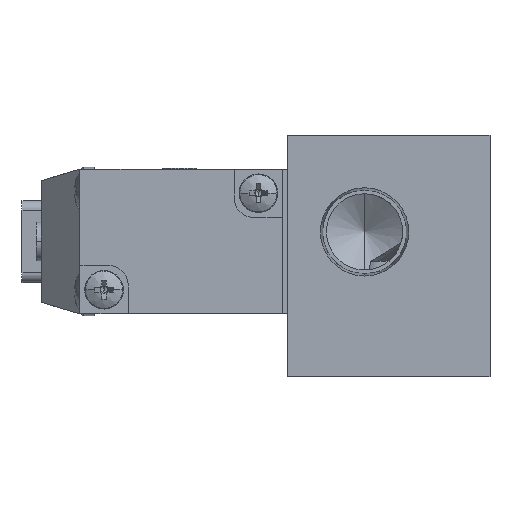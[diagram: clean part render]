
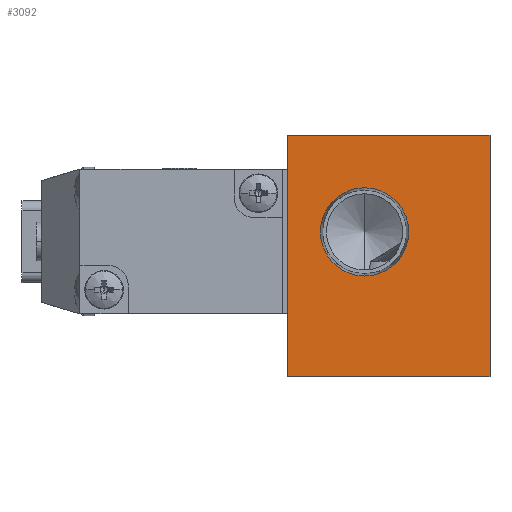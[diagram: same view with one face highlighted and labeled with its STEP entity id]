
A CAD part, left-side view. The second image highlights one B-rep face of the part: STEP entity #3092.
In plain terms, the highlighted planar face has unit normal (-1, 0, 0).
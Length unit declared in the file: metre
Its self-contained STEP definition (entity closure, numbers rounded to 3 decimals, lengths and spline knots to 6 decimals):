
#191 = CARTESIAN_POINT ( 'NONE',  ( -0.019, 0.0025, 0.005573 ) ) ;
#266 = EDGE_CURVE ( 'NONE', #859, #2535, #6646, .T. ) ;
#423 = ORIENTED_EDGE ( 'NONE', *, *, #5661, .T. ) ;
#675 = ORIENTED_EDGE ( 'NONE', *, *, #5507, .F. ) ;
#828 = LINE ( 'NONE', #5502, #5845 ) ;
#831 = LINE ( 'NONE', #4428, #2632 ) ;
#859 = VERTEX_POINT ( 'NONE', #9368 ) ;
#998 = ORIENTED_EDGE ( 'NONE', *, *, #266, .T. ) ;
#1267 = ORIENTED_EDGE ( 'NONE', *, *, #10780, .T. ) ;
#1722 = CARTESIAN_POINT ( 'NONE',  ( -0.019, 0., -0.014 ) ) ;
#1736 = DIRECTION ( 'NONE',  ( 0., -1., 0. ) ) ;
#1769 = EDGE_LOOP ( 'NONE', ( #675, #423, #2106, #11337 ) ) ;
#1778 = LINE ( 'NONE', #7544, #6523 ) ;
#1940 = VERTEX_POINT ( 'NONE', #7161 ) ;
#2106 = ORIENTED_EDGE ( 'NONE', *, *, #6388, .F. ) ;
#2414 = CARTESIAN_POINT ( 'NONE',  ( -0.019, 0.0025, 0.001 ) ) ;
#2535 = VERTEX_POINT ( 'NONE', #191 ) ;
#2632 = VECTOR ( 'NONE', #7953, 1. ) ;
#3092 = ADVANCED_FACE ( 'NONE', ( #8355, #3101 ), #5477, .T. ) ;
#3101 = FACE_OUTER_BOUND ( 'NONE', #1769, .T. ) ;
#3322 = DIRECTION ( 'NONE',  ( 0., 0., 1. ) ) ;
#3354 = DIRECTION ( 'NONE',  ( 1., 0., 0. ) ) ;
#3363 = CARTESIAN_POINT ( 'NONE',  ( -0.019, 0.0025, 0.001 ) ) ;
#3434 = DIRECTION ( 'NONE',  ( 0., 0., 1. ) ) ;
#3617 = LINE ( 'NONE', #1722, #10640 ) ;
#4328 = VERTEX_POINT ( 'NONE', #5569 ) ;
#4428 = CARTESIAN_POINT ( 'NONE',  ( -0.019, 0.0105, -0.0015 ) ) ;
#5208 = EDGE_CURVE ( 'NONE', #1940, #4328, #3617, .T. ) ;
#5277 = CARTESIAN_POINT ( 'NONE',  ( -0.019, -0.0105, -0.014 ) ) ;
#5477 = PLANE ( 'NONE',  #9824 ) ;
#5500 = DIRECTION ( 'NONE',  ( -1., 0., 0. ) ) ;
#5502 = CARTESIAN_POINT ( 'NONE',  ( -0.019, -0.0105, -0.0015 ) ) ;
#5507 = EDGE_CURVE ( 'NONE', #9214, #4328, #828, .T. ) ;
#5515 = DIRECTION ( 'NONE',  ( 0., 0., 1. ) ) ;
#5528 = DIRECTION ( 'NONE',  ( 0., 0., -1. ) ) ;
#5553 = AXIS2_PLACEMENT_3D ( 'NONE', #3363, #3354, #3434 ) ;
#5569 = CARTESIAN_POINT ( 'NONE',  ( -0.019, -0.0105, -0.014 ) ) ;
#5661 = EDGE_CURVE ( 'NONE', #9214, #8366, #1778, .T. ) ;
#5845 = VECTOR ( 'NONE', #5528, 1. ) ;
#6253 = CARTESIAN_POINT ( 'NONE',  ( -0.019, 0.0105, 0.011 ) ) ;
#6388 = EDGE_CURVE ( 'NONE', #1940, #8366, #831, .T. ) ;
#6523 = VECTOR ( 'NONE', #7617, 1. ) ;
#6646 = CIRCLE ( 'NONE', #5553, 0.004573 ) ;
#7161 = CARTESIAN_POINT ( 'NONE',  ( -0.019, 0.0105, -0.014 ) ) ;
#7544 = CARTESIAN_POINT ( 'NONE',  ( -0.019, 0., 0.011 ) ) ;
#7617 = DIRECTION ( 'NONE',  ( 0., 1., 0. ) ) ;
#7953 = DIRECTION ( 'NONE',  ( 0., 0., 1. ) ) ;
#8355 = FACE_BOUND ( 'NONE', #11166, .T. ) ;
#8366 = VERTEX_POINT ( 'NONE', #6253 ) ;
#8608 = DIRECTION ( 'NONE',  ( 1., 0., 0. ) ) ;
#8835 = CARTESIAN_POINT ( 'NONE',  ( -0.019, -0.0105, 0.011 ) ) ;
#9214 = VERTEX_POINT ( 'NONE', #8835 ) ;
#9368 = CARTESIAN_POINT ( 'NONE',  ( -0.019, 0.0025, -0.003573 ) ) ;
#9452 = AXIS2_PLACEMENT_3D ( 'NONE', #2414, #8608, #3322 ) ;
#9824 = AXIS2_PLACEMENT_3D ( 'NONE', #5277, #5500, #5515 ) ;
#10640 = VECTOR ( 'NONE', #1736, 1. ) ;
#10688 = CIRCLE ( 'NONE', #9452, 0.004573 ) ;
#10780 = EDGE_CURVE ( 'NONE', #2535, #859, #10688, .T. ) ;
#11166 = EDGE_LOOP ( 'NONE', ( #1267, #998 ) ) ;
#11337 = ORIENTED_EDGE ( 'NONE', *, *, #5208, .T. ) ;
